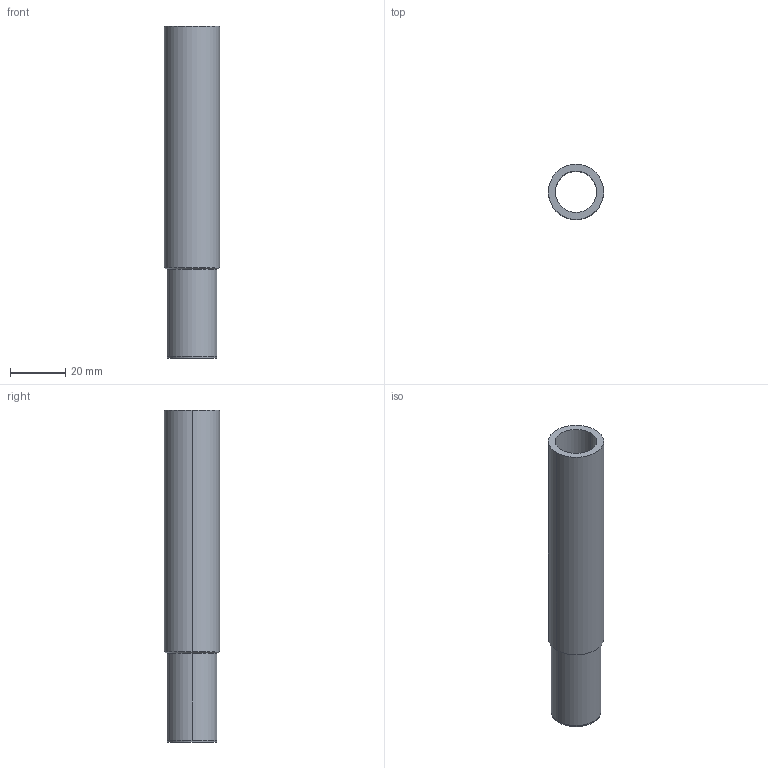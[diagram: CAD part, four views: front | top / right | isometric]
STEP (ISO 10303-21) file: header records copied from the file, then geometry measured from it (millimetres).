
FILE_DESCRIPTION(('OneSpaceDesigner STEP Export'),'2;1');
FILE_NAME('C1432 20x18.stp','2010-06-15T16:28:27',(''),(''),'OneSpace Designer STEP processor for AP214 (Solid Model)','OneSpace Modeling 15.00A 14-Mar-2007 (C) CoCreate Software GmbH','');
FILE_SCHEMA(('AUTOMOTIVE_DESIGN { 1 0 10303 214 1 1 1 1 }'));
Length unit declared in the file: millimetre
Products named in the file (2): C1432_20x18
Assembly tree (1 placements, depth 2):
  C1432_20x18
    C1432_20x18
Bounding box: 20 x 20 x 120 mm (x, y, z)
Volume: 14564.1 mm3; surface area: 13236.2 mm2
Topology: 1 solids, 1 shells, 12 faces, 24 edges, 14 vertices
Faces by surface type: cylinder 6, cone 4, plane 2
Entity records: 303 total; most frequent: ORIENTED_EDGE 48, DIRECTION 42, CARTESIAN_POINT 40, EDGE_CURVE 24, AXIS2_PLACEMENT_3D 16, VERTEX_POINT 14, EDGE_LOOP 14, FACE_OUTER_BOUND 12
